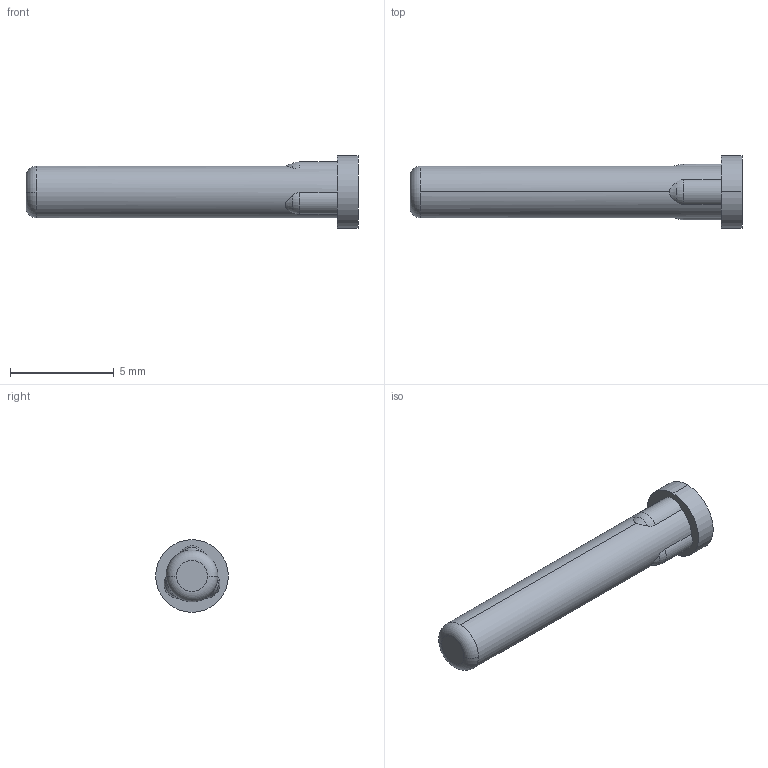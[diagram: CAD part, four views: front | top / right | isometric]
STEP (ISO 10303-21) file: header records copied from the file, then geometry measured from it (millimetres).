
FILE_DESCRIPTION(('Creo Elements/Direct Modeling STEP Export'),'2;1');
FILE_NAME('H20-0020-CL901-00_BB-025S.stp','2021-09-07T14:19:59',(''),(''),'Creo Elements/Direct Modeling STEP processor for AP214 (Solid Model)','Creo Elements/Direct Modeling 20.3B 05-Dec-2020 (C) Parametric Technology GmbH','');
FILE_SCHEMA(('AUTOMOTIVE_DESIGN { 1 0 10303 214 1 1 1 1 }'));
Length unit declared in the file: millimetre
Products named in the file (2): BB-025S
Assembly tree (1 placements, depth 2):
  BB-025S
    BB-025S
Bounding box: 16 x 3.5 x 3.5 mm (x, y, z)
Volume: 84 mm3; surface area: 147.2 mm2
Topology: 1 solids, 1 shells, 21 faces, 133 edges, 118 vertices
Faces by surface type: cylinder 7, plane 6, torus 5, cone 3
Entity records: 1501 total; most frequent: CARTESIAN_POINT 368, ORIENTED_EDGE 266, DIRECTION 198, EDGE_CURVE 133, VERTEX_POINT 118, VECTOR 92, LINE 92, AXIS2_PLACEMENT_3D 53
